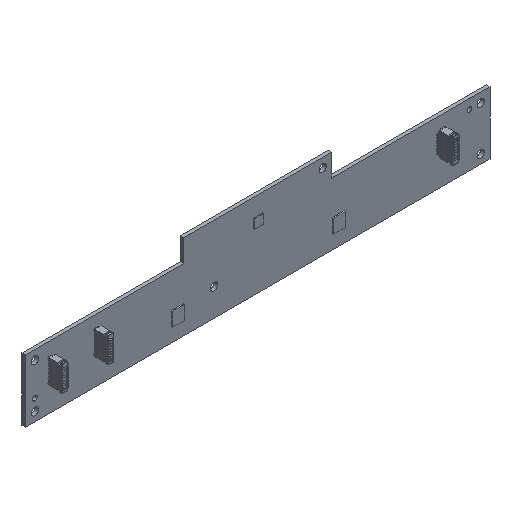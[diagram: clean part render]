
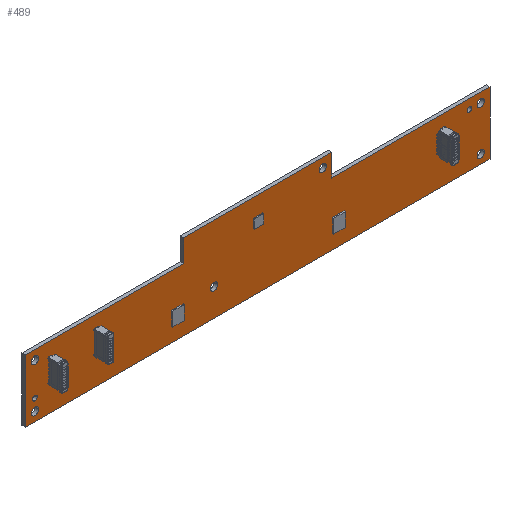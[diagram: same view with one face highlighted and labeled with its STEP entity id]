
A CAD part, isometric view. The second image highlights one B-rep face of the part: STEP entity #489.
In plain terms, the highlighted planar face has unit normal (0, -1, 0).
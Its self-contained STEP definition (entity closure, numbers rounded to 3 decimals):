
#2=DIRECTION('',(0.,0.,1.));
#3=VECTOR('',#2,27.25);
#4=CARTESIAN_POINT('',(-101.,0.,-27.25));
#5=LINE('',#4,#3);
#6=DIRECTION('',(1.,0.,0.));
#7=VECTOR('',#6,68.75);
#8=CARTESIAN_POINT('',(-101.,0.,0.));
#9=LINE('',#8,#7);
#10=DIRECTION('',(0.,0.,1.));
#11=VECTOR('',#10,9.75);
#12=CARTESIAN_POINT('',(-32.25,0.,0.));
#13=LINE('',#12,#11);
#14=DIRECTION('',(1.,0.,0.));
#15=VECTOR('',#14,64.5);
#16=CARTESIAN_POINT('',(-32.25,0.,9.75));
#17=LINE('',#16,#15);
#18=DIRECTION('',(0.,0.,-1.));
#19=VECTOR('',#18,9.75);
#20=CARTESIAN_POINT('',(32.25,0.,9.75));
#21=LINE('',#20,#19);
#22=DIRECTION('',(1.,0.,0.));
#23=VECTOR('',#22,68.75);
#24=CARTESIAN_POINT('',(32.25,0.,0.));
#25=LINE('',#24,#23);
#26=DIRECTION('',(0.,0.,-1.));
#27=VECTOR('',#26,27.25);
#28=CARTESIAN_POINT('',(101.,0.,0.));
#29=LINE('',#28,#27);
#30=DIRECTION('',(-1.,0.,0.));
#31=VECTOR('',#30,202.);
#32=CARTESIAN_POINT('',(101.,0.,-27.25));
#33=LINE('',#32,#31);
#34=CARTESIAN_POINT('',(97.,0.,-23.25));
#35=DIRECTION('',(0.,1.,0.));
#36=DIRECTION('',(1.,0.,0.));
#37=AXIS2_PLACEMENT_3D('',#34,#35,#36);
#39=CARTESIAN_POINT('',(97.,0.,-23.25));
#40=DIRECTION('',(0.,1.,0.));
#41=DIRECTION('',(-1.,0.,0.));
#42=AXIS2_PLACEMENT_3D('',#39,#40,#41);
#44=CARTESIAN_POINT('',(-97.,0.,-23.25));
#45=DIRECTION('',(0.,1.,0.));
#46=DIRECTION('',(1.,0.,0.));
#47=AXIS2_PLACEMENT_3D('',#44,#45,#46);
#49=CARTESIAN_POINT('',(-97.,0.,-23.25));
#50=DIRECTION('',(0.,1.,0.));
#51=DIRECTION('',(-1.,0.,0.));
#52=AXIS2_PLACEMENT_3D('',#49,#50,#51);
#54=CARTESIAN_POINT('',(-19.,0.,-15.25));
#55=DIRECTION('',(0.,1.,0.));
#56=DIRECTION('',(1.,0.,0.));
#57=AXIS2_PLACEMENT_3D('',#54,#55,#56);
#59=CARTESIAN_POINT('',(-19.,0.,-15.25));
#60=DIRECTION('',(0.,1.,0.));
#61=DIRECTION('',(-1.,0.,0.));
#62=AXIS2_PLACEMENT_3D('',#59,#60,#61);
#64=CARTESIAN_POINT('',(28.25,0.,5.75));
#65=DIRECTION('',(0.,1.,0.));
#66=DIRECTION('',(1.,0.,0.));
#67=AXIS2_PLACEMENT_3D('',#64,#65,#66);
#69=CARTESIAN_POINT('',(28.25,0.,5.75));
#70=DIRECTION('',(0.,1.,0.));
#71=DIRECTION('',(-1.,0.,0.));
#72=AXIS2_PLACEMENT_3D('',#69,#70,#71);
#74=CARTESIAN_POINT('',(-97.,0.,-4.));
#75=DIRECTION('',(0.,1.,0.));
#76=DIRECTION('',(1.,0.,0.));
#77=AXIS2_PLACEMENT_3D('',#74,#75,#76);
#79=CARTESIAN_POINT('',(-97.,0.,-4.));
#80=DIRECTION('',(0.,1.,0.));
#81=DIRECTION('',(-1.,0.,0.));
#82=AXIS2_PLACEMENT_3D('',#79,#80,#81);
#84=CARTESIAN_POINT('',(97.,0.,-4.));
#85=DIRECTION('',(0.,1.,0.));
#86=DIRECTION('',(1.,0.,0.));
#87=AXIS2_PLACEMENT_3D('',#84,#85,#86);
#89=CARTESIAN_POINT('',(97.,0.,-4.));
#90=DIRECTION('',(0.,1.,0.));
#91=DIRECTION('',(-1.,0.,0.));
#92=AXIS2_PLACEMENT_3D('',#89,#90,#91);
#94=CARTESIAN_POINT('',(-97.,0.,-18.25));
#95=DIRECTION('',(0.,1.,0.));
#96=DIRECTION('',(1.,0.,0.));
#97=AXIS2_PLACEMENT_3D('',#94,#95,#96);
#99=CARTESIAN_POINT('',(-97.,0.,-18.25));
#100=DIRECTION('',(0.,1.,0.));
#101=DIRECTION('',(-1.,0.,0.));
#102=AXIS2_PLACEMENT_3D('',#99,#100,#101);
#104=CARTESIAN_POINT('',(92.,0.,-4.));
#105=DIRECTION('',(0.,1.,0.));
#106=DIRECTION('',(1.,0.,0.));
#107=AXIS2_PLACEMENT_3D('',#104,#105,#106);
#109=CARTESIAN_POINT('',(92.,0.,-4.));
#110=DIRECTION('',(0.,1.,0.));
#111=DIRECTION('',(-1.,0.,0.));
#112=AXIS2_PLACEMENT_3D('',#109,#110,#111);
#322=CARTESIAN_POINT('',(-101.,0.,-27.25));
#323=CARTESIAN_POINT('',(-101.,0.,0.));
#324=VERTEX_POINT('',#322);
#325=VERTEX_POINT('',#323);
#326=CARTESIAN_POINT('',(-32.25,0.,9.75));
#327=CARTESIAN_POINT('',(32.25,0.,9.75));
#328=VERTEX_POINT('',#326);
#329=VERTEX_POINT('',#327);
#330=CARTESIAN_POINT('',(101.,0.,0.));
#331=CARTESIAN_POINT('',(101.,0.,-27.25));
#332=VERTEX_POINT('',#330);
#333=VERTEX_POINT('',#331);
#346=CARTESIAN_POINT('',(98.6,0.,-23.25));
#347=CARTESIAN_POINT('',(95.4,0.,-23.25));
#348=VERTEX_POINT('',#346);
#349=VERTEX_POINT('',#347);
#350=CARTESIAN_POINT('',(-95.4,0.,-23.25));
#351=CARTESIAN_POINT('',(-98.6,0.,-23.25));
#352=VERTEX_POINT('',#350);
#353=VERTEX_POINT('',#351);
#362=CARTESIAN_POINT('',(-32.25,0.,0.));
#363=VERTEX_POINT('',#362);
#364=CARTESIAN_POINT('',(32.25,0.,0.));
#365=VERTEX_POINT('',#364);
#370=CARTESIAN_POINT('',(-17.4,0.,-15.25));
#371=CARTESIAN_POINT('',(-20.6,0.,-15.25));
#372=VERTEX_POINT('',#370);
#373=VERTEX_POINT('',#371);
#374=CARTESIAN_POINT('',(29.85,0.,5.75));
#375=CARTESIAN_POINT('',(26.65,0.,5.75));
#376=VERTEX_POINT('',#374);
#377=VERTEX_POINT('',#375);
#386=CARTESIAN_POINT('',(-95.4,0.,-4.));
#387=CARTESIAN_POINT('',(-98.6,0.,-4.));
#388=VERTEX_POINT('',#386);
#389=VERTEX_POINT('',#387);
#390=CARTESIAN_POINT('',(98.6,0.,-4.));
#391=CARTESIAN_POINT('',(95.4,0.,-4.));
#392=VERTEX_POINT('',#390);
#393=VERTEX_POINT('',#391);
#394=CARTESIAN_POINT('',(-96.,0.,-18.25));
#395=CARTESIAN_POINT('',(-98.,0.,-18.25));
#396=VERTEX_POINT('',#394);
#397=VERTEX_POINT('',#395);
#398=CARTESIAN_POINT('',(93.,0.,-4.));
#399=CARTESIAN_POINT('',(91.,0.,-4.));
#400=VERTEX_POINT('',#398);
#401=VERTEX_POINT('',#399);
#418=CARTESIAN_POINT('',(0.,0.,0.));
#419=DIRECTION('',(0.,1.,0.));
#420=DIRECTION('',(1.,0.,0.));
#421=AXIS2_PLACEMENT_3D('',#418,#419,#420);
#422=PLANE('',#421);
#424=ORIENTED_EDGE('',*,*,#423,.T.);
#426=ORIENTED_EDGE('',*,*,#425,.T.);
#428=ORIENTED_EDGE('',*,*,#427,.T.);
#430=ORIENTED_EDGE('',*,*,#429,.T.);
#432=ORIENTED_EDGE('',*,*,#431,.T.);
#434=ORIENTED_EDGE('',*,*,#433,.T.);
#436=ORIENTED_EDGE('',*,*,#435,.T.);
#438=ORIENTED_EDGE('',*,*,#437,.T.);
#439=EDGE_LOOP('',(#424,#426,#428,#430,#432,#434,#436,#438));
#440=FACE_OUTER_BOUND('',#439,.F.);
#442=ORIENTED_EDGE('',*,*,#441,.F.);
#444=ORIENTED_EDGE('',*,*,#443,.F.);
#445=EDGE_LOOP('',(#442,#444));
#446=FACE_BOUND('',#445,.F.);
#448=ORIENTED_EDGE('',*,*,#447,.F.);
#450=ORIENTED_EDGE('',*,*,#449,.F.);
#451=EDGE_LOOP('',(#448,#450));
#452=FACE_BOUND('',#451,.F.);
#454=ORIENTED_EDGE('',*,*,#453,.F.);
#456=ORIENTED_EDGE('',*,*,#455,.F.);
#457=EDGE_LOOP('',(#454,#456));
#458=FACE_BOUND('',#457,.F.);
#460=ORIENTED_EDGE('',*,*,#459,.F.);
#462=ORIENTED_EDGE('',*,*,#461,.F.);
#463=EDGE_LOOP('',(#460,#462));
#464=FACE_BOUND('',#463,.F.);
#466=ORIENTED_EDGE('',*,*,#465,.F.);
#468=ORIENTED_EDGE('',*,*,#467,.F.);
#469=EDGE_LOOP('',(#466,#468));
#470=FACE_BOUND('',#469,.F.);
#472=ORIENTED_EDGE('',*,*,#471,.F.);
#474=ORIENTED_EDGE('',*,*,#473,.F.);
#475=EDGE_LOOP('',(#472,#474));
#476=FACE_BOUND('',#475,.F.);
#478=ORIENTED_EDGE('',*,*,#477,.F.);
#480=ORIENTED_EDGE('',*,*,#479,.F.);
#481=EDGE_LOOP('',(#478,#480));
#482=FACE_BOUND('',#481,.F.);
#484=ORIENTED_EDGE('',*,*,#483,.F.);
#486=ORIENTED_EDGE('',*,*,#485,.F.);
#487=EDGE_LOOP('',(#484,#486));
#488=FACE_BOUND('',#487,.F.);
#489=ADVANCED_FACE('',(#440,#446,#452,#458,#464,#470,#476,#482,#488),#422,.F.);
#38=CIRCLE('',#37,1.6);
#43=CIRCLE('',#42,1.6);
#48=CIRCLE('',#47,1.6);
#53=CIRCLE('',#52,1.6);
#58=CIRCLE('',#57,1.6);
#63=CIRCLE('',#62,1.6);
#68=CIRCLE('',#67,1.6);
#73=CIRCLE('',#72,1.6);
#78=CIRCLE('',#77,1.6);
#83=CIRCLE('',#82,1.6);
#88=CIRCLE('',#87,1.6);
#93=CIRCLE('',#92,1.6);
#98=CIRCLE('',#97,1.);
#103=CIRCLE('',#102,1.);
#108=CIRCLE('',#107,1.);
#113=CIRCLE('',#112,1.);
#423=EDGE_CURVE('',#324,#325,#5,.T.);
#425=EDGE_CURVE('',#325,#363,#9,.T.);
#427=EDGE_CURVE('',#363,#328,#13,.T.);
#429=EDGE_CURVE('',#328,#329,#17,.T.);
#431=EDGE_CURVE('',#329,#365,#21,.T.);
#433=EDGE_CURVE('',#365,#332,#25,.T.);
#435=EDGE_CURVE('',#332,#333,#29,.T.);
#437=EDGE_CURVE('',#333,#324,#33,.T.);
#441=EDGE_CURVE('',#348,#349,#38,.T.);
#443=EDGE_CURVE('',#349,#348,#43,.T.);
#447=EDGE_CURVE('',#352,#353,#48,.T.);
#449=EDGE_CURVE('',#353,#352,#53,.T.);
#453=EDGE_CURVE('',#372,#373,#58,.T.);
#455=EDGE_CURVE('',#373,#372,#63,.T.);
#459=EDGE_CURVE('',#376,#377,#68,.T.);
#461=EDGE_CURVE('',#377,#376,#73,.T.);
#465=EDGE_CURVE('',#388,#389,#78,.T.);
#467=EDGE_CURVE('',#389,#388,#83,.T.);
#471=EDGE_CURVE('',#392,#393,#88,.T.);
#473=EDGE_CURVE('',#393,#392,#93,.T.);
#477=EDGE_CURVE('',#396,#397,#98,.T.);
#479=EDGE_CURVE('',#397,#396,#103,.T.);
#483=EDGE_CURVE('',#400,#401,#108,.T.);
#485=EDGE_CURVE('',#401,#400,#113,.T.);
